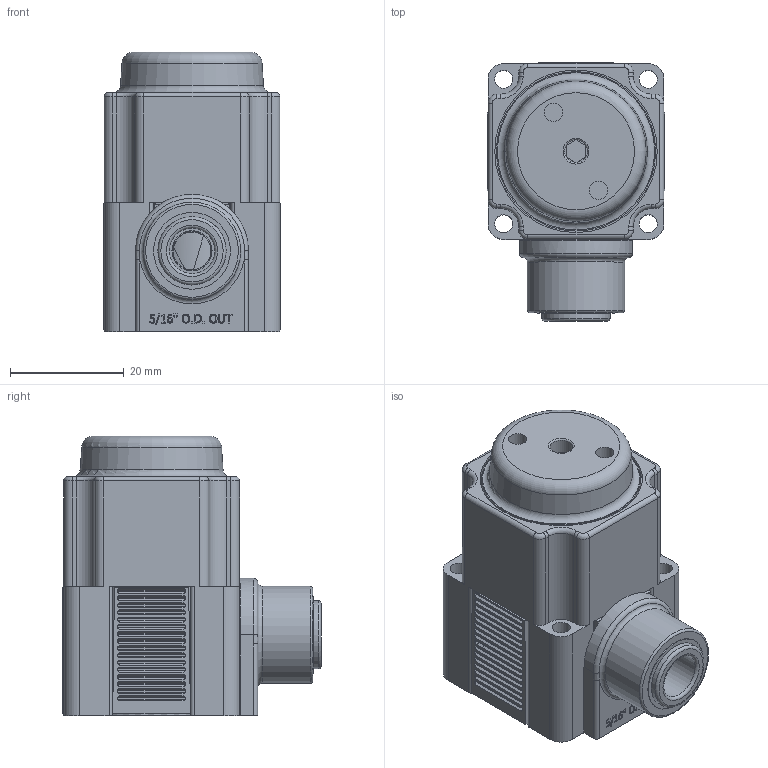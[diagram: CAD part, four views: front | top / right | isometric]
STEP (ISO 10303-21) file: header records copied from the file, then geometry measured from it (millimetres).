
FILE_DESCRIPTION(/* description */ (''),/* implementation_level */ '2;1');
FILE_NAME(/* name */ 'K:\Normteile INVENTOR\Air-Logic\Regulators\PR7000\PR 7___ 6 Push-In Fitting for 5''16 O.D. Tube Out.igs.ipt.stp',/* time_stamp */ '2020-05-27T10:54:11+02:00',/* author */ ('Paul'),/* organization */ (''),/* preprocessor_version */ 'ST-DEVELOPER v18',/* originating_system */ 'Autodesk Inventor 2020',/* authorisation */ '');
FILE_SCHEMA (('AUTOMOTIVE_DESIGN { 1 0 10303 214 3 1 1 }'));
Length unit declared in the file: inch
Products named in the file (1): PR 7___ 6 Push-In Fitting for 5'16 O.D. Tube Out.igs
Bounding box: 31.19 x 45.41 x 49.15 mm (x, y, z)
Volume: 42185.2 mm3; surface area: 13947.3 mm2
Topology: 1 solids, 1 shells, 744 faces, 1931 edges, 1264 vertices
Faces by surface type: plane 370, cylinder 253, bspline 95, torus 24, cone 2
Full cylindrical faces by diameter (mm): 3.175 x4, 3.226 x2, 4.013 x1, 7.061 x1, 8.001 x1, 9.169 x1, 9.398 x1, 11.972 x1, 12.014 x1, 12.903 x1, 13.513 x1, 17.094 x1, 26.264 x1, 28.047 x1, 28.575 x1
Entity records: 25621 total; most frequent: CARTESIAN_POINT 6576, ORIENTED_EDGE 3862, DIRECTION 3746, EDGE_CURVE 1931, AXIS2_PLACEMENT_3D 1414, VERTEX_POINT 1264, LINE 918, VECTOR 918
